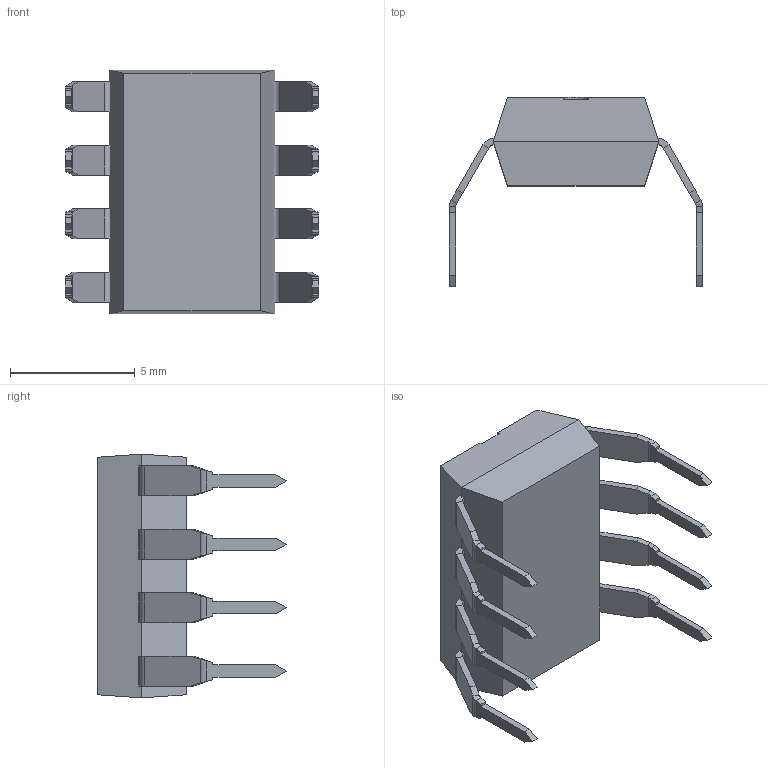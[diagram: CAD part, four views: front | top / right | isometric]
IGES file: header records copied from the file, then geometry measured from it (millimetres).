
Start section: SolidWorks IGES file using analytic representation for surfaces
Global section: file name: C:\Users\David\Dropbox\Jose Espina\Component Packages\DIP8\DIP8-OP6.IGS; native system: SolidWorks 2015; preprocessor: SolidWorks 2015; author: David; date: 151212.121823; units: millimetre
Bounding box: 10.16 x 7.58 x 9.77 mm (x, y, z)
Volume: 245.3 mm3; surface area: 678 mm2
Topology: 4 solids, 4 shells, 234 faces, 550 edges, 324 vertices
Faces by surface type: plane 185, revolution 33, bspline 16
